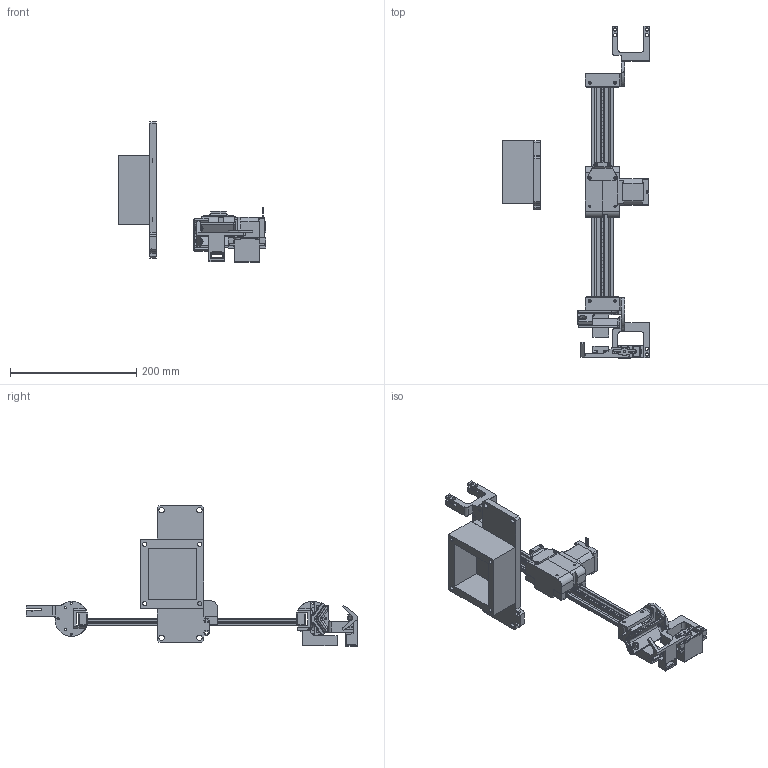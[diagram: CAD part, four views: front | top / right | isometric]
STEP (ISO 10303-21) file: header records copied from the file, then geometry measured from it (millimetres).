
FILE_DESCRIPTION (( 'STEP AP203' ), '1' );
FILE_NAME ('Retro fit new axes.STEP', '2024-07-13T16:21:34', ( '' ), ( '' ), 'SwSTEP 2.0', 'SolidWorks 2020', '' );
FILE_SCHEMA (( 'CONFIG_CONTROL_DESIGN' ));
Length unit declared in the file: millimetre
Products named in the file (24): 2024_06_14_20_41_47_0651.stp; 2024_06_14_20_41_47_0682.stp; Limit Switch mount^Retro fit new axes; Spacer^Retro fit new axes; X Axis; Mount A v2^Retro fit new axes; 2024_06_14_20_41_47_0666.stp; 2024_06_14_20_41_47_0760.stp; 2024_06_14_20_41_47_0744.stp; 2024_06_14_20_41_47_0713.stp; yaxismounting_Standard; Servo cap; GRW_0630_B_80_250_17_L_S_000_1.stp; 2024_06_14_20_41_47_0619.stp; servomotor_mg996r; 2024_06_14_20_41_47_0729.stp; mount_b v2; fin_triangular v2; mount_c v2; 2024_06_14_20_41_47_0635.stp; 2024_06_14_20_41_47_0697.stp; Gripper Assembly; back_fin v2; Retro fit new axes
Assembly tree (24 placements, depth 4):
  Retro fit new axes
    X Axis
      GRW_0630_B_80_250_17_L_S_000_1.stp
        2024_06_14_20_41_47_0760.stp
        2024_06_14_20_41_47_0744.stp
        2024_06_14_20_41_47_0729.stp
        2024_06_14_20_41_47_0713.stp
        2024_06_14_20_41_47_0697.stp
        2024_06_14_20_41_47_0682.stp
        2024_06_14_20_41_47_0666.stp
        2024_06_14_20_41_47_0651.stp
        2024_06_14_20_41_47_0635.stp
        2024_06_14_20_41_47_0619.stp
    Gripper Assembly
      servomotor_mg996r
      back_fin v2
      mount_c v2
    Mount A v2^Retro fit new axes  x2
    mount_b v2
    Limit Switch mount^Retro fit new axes
    yaxismounting_Standard
    Spacer^Retro fit new axes
    Servo cap
    fin_triangular v2
Bounding box: 233.26 x 525.71 x 222.41 mm (x, y, z)
Volume: 843288.7 mm3; surface area: 281349.4 mm2
Topology: 21 solids, 21 shells, 2715 faces, 7453 edges, 4853 vertices
Faces by surface type: plane 1764, cylinder 834, cone 56, torus 22, bspline 21, sphere 18
Entity records: 87989 total; most frequent: CARTESIAN_POINT 17692, ORIENTED_EDGE 14274, DIRECTION 13887, EDGE_CURVE 7137, VECTOR 5323, LINE 5323, VERTEX_POINT 4669, AXIS2_PLACEMENT_3D 4282
